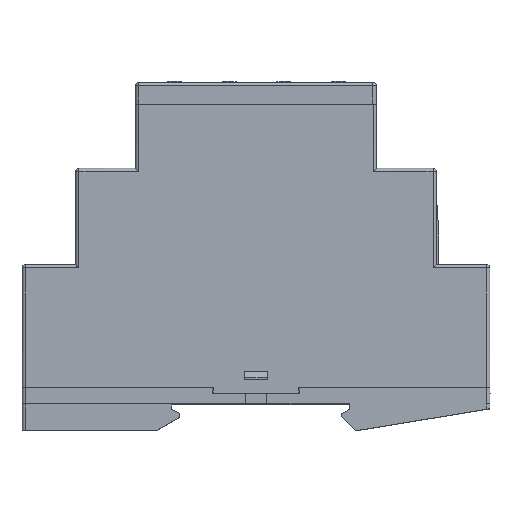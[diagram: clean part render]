
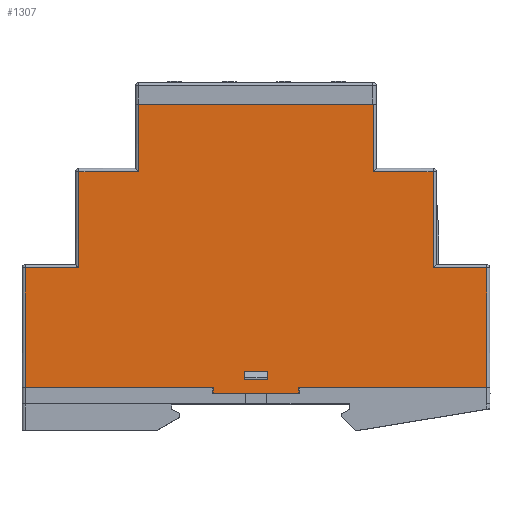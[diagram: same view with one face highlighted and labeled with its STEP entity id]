
A CAD part, top view. The second image highlights one B-rep face of the part: STEP entity #1307.
In plain terms, the highlighted planar face has unit normal (0, 0, 1).
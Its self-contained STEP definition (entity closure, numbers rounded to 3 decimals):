
#124=FACE_BOUND('',#2425,.T.);
#125=FACE_BOUND('',#2426,.T.);
#1307=ADVANCED_FACE('NONE',(#124,#125),#1667,.T.);
#1667=PLANE('',#15087);
#2425=EDGE_LOOP('',(#4965,#4966,#4967,#4968));
#2426=EDGE_LOOP('',(#4969,#4970,#4971,#4972,#4973,#4974,#4975,#4976,#4977,
#4978,#4979,#4980,#4981,#4982,#4983,#4984));
#4965=ORIENTED_EDGE('',*,*,#9902,.F.);
#4966=ORIENTED_EDGE('',*,*,#9896,.F.);
#4967=ORIENTED_EDGE('',*,*,#9899,.F.);
#4968=ORIENTED_EDGE('',*,*,#9901,.F.);
#4969=ORIENTED_EDGE('',*,*,#9903,.T.);
#4970=ORIENTED_EDGE('',*,*,#9904,.T.);
#4971=ORIENTED_EDGE('',*,*,#9905,.T.);
#4972=ORIENTED_EDGE('',*,*,#9906,.T.);
#4973=ORIENTED_EDGE('',*,*,#9907,.T.);
#4974=ORIENTED_EDGE('',*,*,#9908,.T.);
#4975=ORIENTED_EDGE('',*,*,#9909,.F.);
#4976=ORIENTED_EDGE('',*,*,#9910,.T.);
#4977=ORIENTED_EDGE('',*,*,#9911,.T.);
#4978=ORIENTED_EDGE('',*,*,#9912,.T.);
#4979=ORIENTED_EDGE('',*,*,#9913,.T.);
#4980=ORIENTED_EDGE('',*,*,#9914,.T.);
#4981=ORIENTED_EDGE('',*,*,#9915,.T.);
#4982=ORIENTED_EDGE('',*,*,#9916,.T.);
#4983=ORIENTED_EDGE('',*,*,#9917,.T.);
#4984=ORIENTED_EDGE('',*,*,#9918,.T.);
#7584=VERTEX_POINT('',#23291);
#7585=VERTEX_POINT('',#23293);
#7586=VERTEX_POINT('',#23297);
#7587=VERTEX_POINT('',#23301);
#7588=VERTEX_POINT('',#23307);
#7589=VERTEX_POINT('',#23308);
#7590=VERTEX_POINT('',#23310);
#7591=VERTEX_POINT('',#23312);
#7592=VERTEX_POINT('',#23314);
#7593=VERTEX_POINT('',#23316);
#7594=VERTEX_POINT('',#23318);
#7595=VERTEX_POINT('',#23320);
#7596=VERTEX_POINT('',#23322);
#7597=VERTEX_POINT('',#23324);
#7598=VERTEX_POINT('',#23326);
#7599=VERTEX_POINT('',#23328);
#7600=VERTEX_POINT('',#23330);
#7601=VERTEX_POINT('',#23332);
#7602=VERTEX_POINT('',#23334);
#7603=VERTEX_POINT('',#23336);
#9896=EDGE_CURVE('NONE',#7584,#7585,#12031,.T.);
#9899=EDGE_CURVE('NONE',#7586,#7584,#12034,.T.);
#9901=EDGE_CURVE('NONE',#7587,#7586,#12036,.T.);
#9902=EDGE_CURVE('NONE',#7585,#7587,#12037,.T.);
#9903=EDGE_CURVE('NONE',#7588,#7589,#12038,.T.);
#9904=EDGE_CURVE('NONE',#7589,#7590,#12039,.T.);
#9905=EDGE_CURVE('NONE',#7590,#7591,#12040,.T.);
#9906=EDGE_CURVE('NONE',#7591,#7592,#12041,.T.);
#9907=EDGE_CURVE('NONE',#7592,#7593,#12042,.T.);
#9908=EDGE_CURVE('NONE',#7593,#7594,#12043,.T.);
#9909=EDGE_CURVE('NONE',#7595,#7594,#12044,.T.);
#9910=EDGE_CURVE('NONE',#7595,#7596,#12045,.T.);
#9911=EDGE_CURVE('NONE',#7596,#7597,#12046,.T.);
#9912=EDGE_CURVE('NONE',#7597,#7598,#12047,.T.);
#9913=EDGE_CURVE('NONE',#7598,#7599,#12048,.T.);
#9914=EDGE_CURVE('NONE',#7599,#7600,#12049,.T.);
#9915=EDGE_CURVE('NONE',#7600,#7601,#12050,.T.);
#9916=EDGE_CURVE('NONE',#7601,#7602,#12051,.T.);
#9917=EDGE_CURVE('NONE',#7602,#7603,#12052,.T.);
#9918=EDGE_CURVE('NONE',#7603,#7588,#12053,.T.);
#12031=LINE('',#23292,#14059);
#12034=LINE('',#23298,#14062);
#12036=LINE('',#23302,#14064);
#12037=LINE('',#23304,#14065);
#12038=LINE('',#23306,#14066);
#12039=LINE('',#23309,#14067);
#12040=LINE('',#23311,#14068);
#12041=LINE('',#23313,#14069);
#12042=LINE('',#23315,#14070);
#12043=LINE('',#23317,#14071);
#12044=LINE('',#23319,#14072);
#12045=LINE('',#23321,#14073);
#12046=LINE('',#23323,#14074);
#12047=LINE('',#23325,#14075);
#12048=LINE('',#23327,#14076);
#12049=LINE('',#23329,#14077);
#12050=LINE('',#23331,#14078);
#12051=LINE('',#23333,#14079);
#12052=LINE('',#23335,#14080);
#12053=LINE('',#23337,#14081);
#14059=VECTOR('',#17886,1.);
#14062=VECTOR('',#17891,1.);
#14064=VECTOR('',#17895,1.);
#14065=VECTOR('',#17898,1.);
#14066=VECTOR('',#17901,1.);
#14067=VECTOR('',#17902,1.);
#14068=VECTOR('',#17903,1.);
#14069=VECTOR('',#17904,1.);
#14070=VECTOR('',#17905,1.);
#14071=VECTOR('',#17906,1.);
#14072=VECTOR('',#17907,1.);
#14073=VECTOR('',#17908,1.);
#14074=VECTOR('',#17909,1.);
#14075=VECTOR('',#17910,1.);
#14076=VECTOR('',#17911,1.);
#14077=VECTOR('',#17912,1.);
#14078=VECTOR('',#17913,1.);
#14079=VECTOR('',#17914,1.);
#14080=VECTOR('',#17915,1.);
#14081=VECTOR('',#17916,1.);
#15087=AXIS2_PLACEMENT_3D('',#23338,#17917,#17918);
#17886=DIRECTION('',(0.,-1.,0.));
#17891=DIRECTION('',(-1.,0.,0.));
#17895=DIRECTION('',(0.,1.,0.));
#17898=DIRECTION('',(1.,0.,0.));
#17901=DIRECTION('',(-1.,0.,0.));
#17902=DIRECTION('',(-0.002,-1.,0.));
#17903=DIRECTION('',(1.,0.,0.));
#17904=DIRECTION('',(0.,-1.,0.));
#17905=DIRECTION('',(1.,0.,0.));
#17906=DIRECTION('',(0.,1.,0.));
#17907=DIRECTION('',(-1.,0.,0.));
#17908=DIRECTION('',(-0.002,1.,0.));
#17909=DIRECTION('',(-1.,0.,0.));
#17910=DIRECTION('',(-0.002,1.,0.));
#17911=DIRECTION('',(-1.,0.,0.));
#17912=DIRECTION('',(-0.002,1.,0.));
#17913=DIRECTION('',(-1.,0.,0.));
#17914=DIRECTION('',(-0.002,-1.,0.));
#17915=DIRECTION('',(-1.,0.,0.));
#17916=DIRECTION('',(-0.002,-1.,0.));
#17917=DIRECTION('',(0.,0.,1.));
#17918=DIRECTION('',(1.,0.,0.));
#23291=CARTESIAN_POINT('',(2.485,-22.487,13.55));
#23292=CARTESIAN_POINT('',(2.485,-22.487,13.55));
#23293=CARTESIAN_POINT('',(2.485,-24.087,13.55));
#23297=CARTESIAN_POINT('',(6.885,-22.487,13.55));
#23298=CARTESIAN_POINT('',(6.885,-22.487,13.55));
#23301=CARTESIAN_POINT('',(6.885,-24.087,13.55));
#23302=CARTESIAN_POINT('',(6.885,-24.087,13.55));
#23304=CARTESIAN_POINT('',(2.485,-24.087,13.55));
#23306=CARTESIAN_POINT('',(24.223,-3.187,13.55));
#23307=CARTESIAN_POINT('',(-28.416,-3.187,13.55));
#23308=CARTESIAN_POINT('',(-38.374,-3.187,13.55));
#23309=CARTESIAN_POINT('',(-38.371,-1.333,13.55));
#23310=CARTESIAN_POINT('',(-38.413,-25.487,13.55));
#23311=CARTESIAN_POINT('',(-39.016,-25.487,13.55));
#23312=CARTESIAN_POINT('',(-3.315,-25.487,13.55));
#23313=CARTESIAN_POINT('',(-3.315,-25.487,13.55));
#23314=CARTESIAN_POINT('',(-3.315,-26.587,13.55));
#23315=CARTESIAN_POINT('',(24.223,-26.587,13.55));
#23316=CARTESIAN_POINT('',(12.685,-26.587,13.55));
#23317=CARTESIAN_POINT('',(12.685,-26.587,13.55));
#23318=CARTESIAN_POINT('',(12.685,-25.487,13.55));
#23319=CARTESIAN_POINT('',(48.386,-25.487,13.55));
#23320=CARTESIAN_POINT('',(47.783,-25.487,13.55));
#23321=CARTESIAN_POINT('',(47.741,-1.402,13.55));
#23322=CARTESIAN_POINT('',(47.744,-3.187,13.55));
#23323=CARTESIAN_POINT('',(24.223,-3.187,13.55));
#23324=CARTESIAN_POINT('',(37.786,-3.187,13.55));
#23325=CARTESIAN_POINT('',(37.783,-1.419,13.55));
#23326=CARTESIAN_POINT('',(37.755,14.813,13.55));
#23327=CARTESIAN_POINT('',(27.185,14.813,13.55));
#23328=CARTESIAN_POINT('',(26.586,14.813,13.55));
#23329=CARTESIAN_POINT('',(26.564,27.412,13.55));
#23330=CARTESIAN_POINT('',(26.564,27.413,13.55));
#23331=CARTESIAN_POINT('',(24.223,27.413,13.55));
#23332=CARTESIAN_POINT('',(-17.194,27.413,13.55));
#23333=CARTESIAN_POINT('',(-17.215,15.412,13.55));
#23334=CARTESIAN_POINT('',(-17.216,14.813,13.55));
#23335=CARTESIAN_POINT('',(-28.984,14.813,13.55));
#23336=CARTESIAN_POINT('',(-28.385,14.813,13.55));
#23337=CARTESIAN_POINT('',(-28.413,-1.351,13.55));
#23338=CARTESIAN_POINT('',(24.223,-1.443,13.55));
